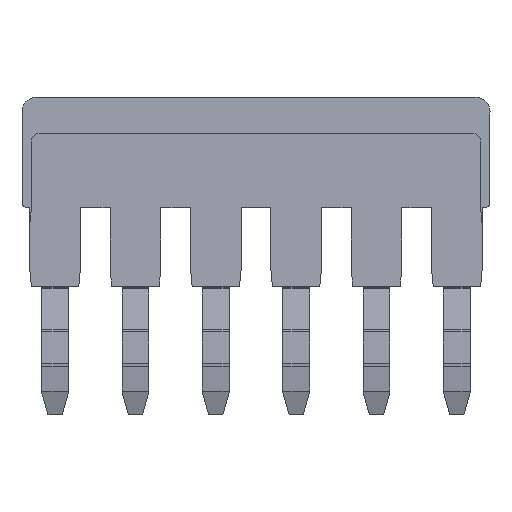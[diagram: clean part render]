
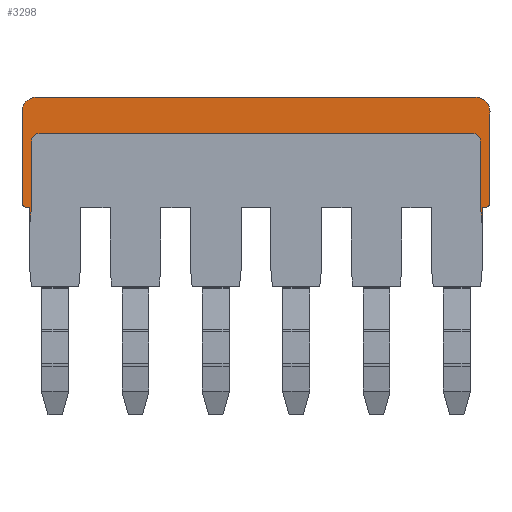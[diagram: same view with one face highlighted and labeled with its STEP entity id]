
A CAD part, top view. The second image highlights one B-rep face of the part: STEP entity #3298.
In plain terms, the highlighted planar face has unit normal (0, 0, 1).
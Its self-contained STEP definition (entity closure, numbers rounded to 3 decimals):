
#284=DIRECTION('',(1.,0.,0.));
#285=VECTOR('',#284,27.9);
#286=CARTESIAN_POINT('',(0.904,12.,0.));
#287=LINE('',#286,#285);
#288=CARTESIAN_POINT('',(28.788,11.081,
0.));
#289=DIRECTION('',(0.,0.,-1.));
#290=DIRECTION('',(0.017,1.,0.));
#291=AXIS2_PLACEMENT_3D('',#288,#289,#290);
#293=CARTESIAN_POINT('',(28.788,11.081,
0.));
#294=DIRECTION('',(0.,0.,-1.));
#295=DIRECTION('',(1.,0.,0.));
#296=AXIS2_PLACEMENT_3D('',#293,#294,#295);
#298=CARTESIAN_POINT('',(29.404,5.3,
0.));
#299=DIRECTION('',(0.,0.,-1.));
#300=DIRECTION('',(1.,0.,0.));
#301=AXIS2_PLACEMENT_3D('',#298,#299,#300);
#303=DIRECTION('',(0.,-1.,0.));
#304=VECTOR('',#303,1.01);
#305=CARTESIAN_POINT('',(29.204,5.,0.));
#306=LINE('',#305,#304);
#307=DIRECTION('',(-0.1,0.995,0.));
#308=VECTOR('',#307,1.005);
#309=CARTESIAN_POINT('',(29.204,3.99,
0.));
#310=LINE('',#309,#308);
#311=CARTESIAN_POINT('',(28.604,9.2,0.));
#312=DIRECTION('',(0.,0.,1.));
#313=DIRECTION('',(1.,0.,0.));
#314=AXIS2_PLACEMENT_3D('',#311,#312,#313);
#316=DIRECTION('',(-1.,0.,0.));
#317=VECTOR('',#316,27.5);
#318=CARTESIAN_POINT('',(28.604,9.7,0.));
#319=LINE('',#318,#317);
#320=CARTESIAN_POINT('',(1.104,9.2,0.));
#321=DIRECTION('',(0.,0.,1.));
#322=DIRECTION('',(0.,1.,0.));
#323=AXIS2_PLACEMENT_3D('',#320,#321,#322);
#325=DIRECTION('',(0.,-1.,0.));
#326=VECTOR('',#325,4.21);
#327=CARTESIAN_POINT('',(0.604,9.2,0.));
#328=LINE('',#327,#326);
#329=DIRECTION('',(-0.1,-0.995,0.));
#330=VECTOR('',#329,1.005);
#331=CARTESIAN_POINT('',(0.604,4.99,
0.));
#332=LINE('',#331,#330);
#333=CARTESIAN_POINT('',(0.304,5.3,0.));
#334=DIRECTION('',(0.,0.,-1.));
#335=DIRECTION('',(0.,-1.,0.));
#336=AXIS2_PLACEMENT_3D('',#333,#334,#335);
#338=DIRECTION('',(0.,1.,0.));
#339=VECTOR('',#338,5.862);
#340=CARTESIAN_POINT('',(0.004,5.3,
0.));
#341=LINE('',#340,#339);
#342=CARTESIAN_POINT('',(0.919,11.081,
0.));
#343=DIRECTION('',(0.,0.,-1.));
#344=DIRECTION('',(-0.996,0.088,0.));
#345=AXIS2_PLACEMENT_3D('',#342,#343,#344);
#355=DIRECTION('',(0.,1.,0.));
#356=VECTOR('',#355,5.7);
#357=CARTESIAN_POINT('',(29.704,5.3,
0.));
#358=LINE('',#357,#356);
#371=DIRECTION('',(1.,0.,0.));
#372=VECTOR('',#371,0.2);
#373=CARTESIAN_POINT('',(29.204,5.,0.));
#374=LINE('',#373,#372);
#399=DIRECTION('',(0.,-1.,0.));
#400=VECTOR('',#399,4.21);
#401=CARTESIAN_POINT('',(29.104,9.2,0.));
#402=LINE('',#401,#400);
#735=DIRECTION('',(1.,0.,0.));
#736=VECTOR('',#735,0.2);
#737=CARTESIAN_POINT('',(0.304,5.,0.));
#738=LINE('',#737,#736);
#739=DIRECTION('',(0.,-1.,0.));
#740=VECTOR('',#739,1.01);
#741=CARTESIAN_POINT('',(0.504,5.,0.));
#742=LINE('',#741,#740);
#2413=CARTESIAN_POINT('',(28.604,9.7,0.));
#2414=CARTESIAN_POINT('',(1.104,9.7,0.));
#2415=VERTEX_POINT('',#2413);
#2416=VERTEX_POINT('',#2414);
#2417=CARTESIAN_POINT('',(0.904,12.,0.));
#2418=CARTESIAN_POINT('',(28.804,12.,0.));
#2419=VERTEX_POINT('',#2417);
#2420=VERTEX_POINT('',#2418);
#2421=CARTESIAN_POINT('',(29.707,11.081,
0.));
#2422=CARTESIAN_POINT('',(29.704,11.,
0.));
#2423=VERTEX_POINT('',#2421);
#2424=VERTEX_POINT('',#2422);
#2425=CARTESIAN_POINT('',(29.704,5.3,
0.));
#2426=VERTEX_POINT('',#2425);
#2427=CARTESIAN_POINT('',(29.404,5.,
0.));
#2428=VERTEX_POINT('',#2427);
#2429=CARTESIAN_POINT('',(29.204,5.,0.));
#2430=VERTEX_POINT('',#2429);
#2431=CARTESIAN_POINT('',(29.204,3.99,
0.));
#2432=VERTEX_POINT('',#2431);
#2433=CARTESIAN_POINT('',(29.104,4.99,
0.));
#2434=VERTEX_POINT('',#2433);
#2435=CARTESIAN_POINT('',(29.104,9.2,0.));
#2436=VERTEX_POINT('',#2435);
#2437=CARTESIAN_POINT('',(0.604,9.2,0.));
#2438=VERTEX_POINT('',#2437);
#2439=CARTESIAN_POINT('',(0.604,4.99,
0.));
#2440=VERTEX_POINT('',#2439);
#2441=CARTESIAN_POINT('',(0.504,3.99,
0.));
#2442=VERTEX_POINT('',#2441);
#2443=CARTESIAN_POINT('',(0.504,5.,0.));
#2444=VERTEX_POINT('',#2443);
#2445=CARTESIAN_POINT('',(0.304,5.,0.));
#2446=VERTEX_POINT('',#2445);
#2447=CARTESIAN_POINT('',(0.004,5.3,0.));
#2448=VERTEX_POINT('',#2447);
#2449=CARTESIAN_POINT('',(0.004,11.162,
0.));
#2450=VERTEX_POINT('',#2449);
#3254=CARTESIAN_POINT('',(9.754,8.5,
0.));
#3255=DIRECTION('',(0.,0.,1.));
#3256=DIRECTION('',(1.,0.,0.));
#3257=AXIS2_PLACEMENT_3D('',#3254,#3255,#3256);
#3258=PLANE('',#3257);
#3260=ORIENTED_EDGE('',*,*,#3259,.T.);
#3262=ORIENTED_EDGE('',*,*,#3261,.T.);
#3264=ORIENTED_EDGE('',*,*,#3263,.T.);
#3266=ORIENTED_EDGE('',*,*,#3265,.F.);
#3268=ORIENTED_EDGE('',*,*,#3267,.T.);
#3270=ORIENTED_EDGE('',*,*,#3269,.F.);
#3272=ORIENTED_EDGE('',*,*,#3271,.T.);
#3274=ORIENTED_EDGE('',*,*,#3273,.T.);
#3276=ORIENTED_EDGE('',*,*,#3275,.F.);
#3278=ORIENTED_EDGE('',*,*,#3277,.T.);
#3279=ORIENTED_EDGE('',*,*,#3244,.T.);
#3281=ORIENTED_EDGE('',*,*,#3280,.T.);
#3283=ORIENTED_EDGE('',*,*,#3282,.T.);
#3285=ORIENTED_EDGE('',*,*,#3284,.T.);
#3287=ORIENTED_EDGE('',*,*,#3286,.F.);
#3289=ORIENTED_EDGE('',*,*,#3288,.F.);
#3291=ORIENTED_EDGE('',*,*,#3290,.T.);
#3293=ORIENTED_EDGE('',*,*,#3292,.T.);
#3295=ORIENTED_EDGE('',*,*,#3294,.T.);
#3296=EDGE_LOOP('',(#3260,#3262,#3264,#3266,#3268,#3270,#3272,#3274,#3276,#3278,
#3279,#3281,#3283,#3285,#3287,#3289,#3291,#3293,#3295));
#3297=FACE_OUTER_BOUND('',#3296,.F.);
#3298=ADVANCED_FACE('',(#3297),#3258,.T.);
#292=CIRCLE('',#291,0.919);
#297=CIRCLE('',#296,0.919);
#302=CIRCLE('',#301,0.3);
#315=CIRCLE('',#314,0.5);
#324=CIRCLE('',#323,0.5);
#337=CIRCLE('',#336,0.3);
#346=CIRCLE('',#345,0.919);
#3244=EDGE_CURVE('',#2415,#2416,#319,.T.);
#3259=EDGE_CURVE('',#2419,#2420,#287,.T.);
#3261=EDGE_CURVE('',#2420,#2423,#292,.T.);
#3263=EDGE_CURVE('',#2423,#2424,#297,.T.);
#3265=EDGE_CURVE('',#2426,#2424,#358,.T.);
#3267=EDGE_CURVE('',#2426,#2428,#302,.T.);
#3269=EDGE_CURVE('',#2430,#2428,#374,.T.);
#3271=EDGE_CURVE('',#2430,#2432,#306,.T.);
#3273=EDGE_CURVE('',#2432,#2434,#310,.T.);
#3275=EDGE_CURVE('',#2436,#2434,#402,.T.);
#3277=EDGE_CURVE('',#2436,#2415,#315,.T.);
#3280=EDGE_CURVE('',#2416,#2438,#324,.T.);
#3282=EDGE_CURVE('',#2438,#2440,#328,.T.);
#3284=EDGE_CURVE('',#2440,#2442,#332,.T.);
#3286=EDGE_CURVE('',#2444,#2442,#742,.T.);
#3288=EDGE_CURVE('',#2446,#2444,#738,.T.);
#3290=EDGE_CURVE('',#2446,#2448,#337,.T.);
#3292=EDGE_CURVE('',#2448,#2450,#341,.T.);
#3294=EDGE_CURVE('',#2450,#2419,#346,.T.);
